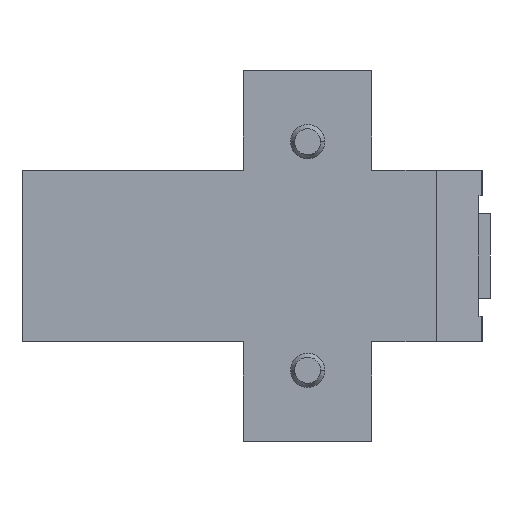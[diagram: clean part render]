
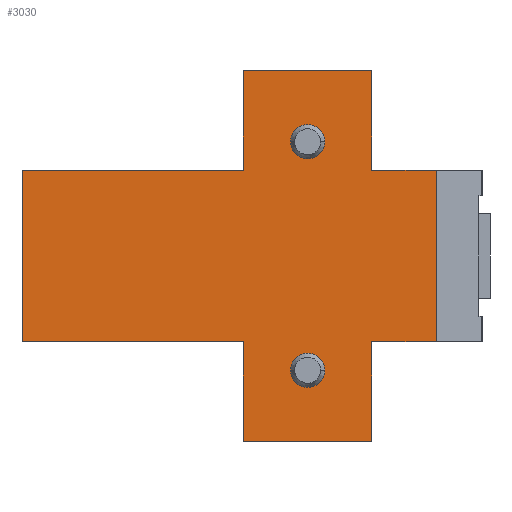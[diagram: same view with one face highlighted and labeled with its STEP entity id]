
A CAD part, left-side view. The second image highlights one B-rep face of the part: STEP entity #3030.
In plain terms, the highlighted planar face has unit normal (-1, 0, 0).
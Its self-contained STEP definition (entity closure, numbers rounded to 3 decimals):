
#387 = VERTEX_POINT ( 'NONE', #1208 ) ;
#395 = VERTEX_POINT ( 'NONE', #1222 ) ;
#416 = VERTEX_POINT ( 'NONE', #1243 ) ;
#417 = VERTEX_POINT ( 'NONE', #1244 ) ;
#422 = VERTEX_POINT ( 'NONE', #1249 ) ;
#424 = VERTEX_POINT ( 'NONE', #1251 ) ;
#448 = VERTEX_POINT ( 'NONE', #1275 ) ;
#449 = VERTEX_POINT ( 'NONE', #1276 ) ;
#453 = VERTEX_POINT ( 'NONE', #1280 ) ;
#455 = VERTEX_POINT ( 'NONE', #1282 ) ;
#456 = VERTEX_POINT ( 'NONE', #1283 ) ;
#458 = VERTEX_POINT ( 'NONE', #1285 ) ;
#461 = VERTEX_POINT ( 'NONE', #1288 ) ;
#463 = VERTEX_POINT ( 'NONE', #1290 ) ;
#464 = VERTEX_POINT ( 'NONE', #1291 ) ;
#466 = VERTEX_POINT ( 'NONE', #1293 ) ;
#616 = FACE_OUTER_BOUND ( 'NONE', #3461, .T. ) ;
#618 = DIRECTION ( 'NONE',  ( 1., 0., 0. ) ) ;
#621 = FACE_BOUND ( 'NONE', #3474, .T. ) ;
#622 = CARTESIAN_POINT ( 'NONE',  ( 0., -5.007, -12. ) ) ;
#624 = FACE_BOUND ( 'NONE', #3480, .T. ) ;
#625 = PLANE ( 'NONE',  #2630 ) ;
#626 = DIRECTION ( 'NONE',  ( 0., 0., -1. ) ) ;
#803 = ORIENTED_EDGE ( 'NONE', *, *, #3208, .F. ) ;
#804 = ORIENTED_EDGE ( 'NONE', *, *, #3131, .F. ) ;
#805 = ORIENTED_EDGE ( 'NONE', *, *, #3210, .F. ) ;
#806 = ORIENTED_EDGE ( 'NONE', *, *, #3211, .T. ) ;
#807 = ORIENTED_EDGE ( 'NONE', *, *, #3212, .F. ) ;
#808 = ORIENTED_EDGE ( 'NONE', *, *, #3213, .F. ) ;
#809 = ORIENTED_EDGE ( 'NONE', *, *, #3214, .F. ) ;
#810 = ORIENTED_EDGE ( 'NONE', *, *, #3215, .F. ) ;
#811 = ORIENTED_EDGE ( 'NONE', *, *, #3216, .T. ) ;
#812 = ORIENTED_EDGE ( 'NONE', *, *, #3217, .F. ) ;
#813 = ORIENTED_EDGE ( 'NONE', *, *, #3219, .T. ) ;
#814 = ORIENTED_EDGE ( 'NONE', *, *, #3220, .T. ) ;
#815 = ORIENTED_EDGE ( 'NONE', *, *, #3222, .T. ) ;
#816 = ORIENTED_EDGE ( 'NONE', *, *, #3223, .T. ) ;
#817 = ORIENTED_EDGE ( 'NONE', *, *, #3224, .F. ) ;
#818 = ORIENTED_EDGE ( 'NONE', *, *, #3122, .F. ) ;
#1208 = CARTESIAN_POINT ( 'NONE',  ( 0., 10.6, 16. ) ) ;
#1222 = CARTESIAN_POINT ( 'NONE',  ( 0., 15.4, 16. ) ) ;
#1243 = CARTESIAN_POINT ( 'NONE',  ( 0., 4., -26. ) ) ;
#1244 = CARTESIAN_POINT ( 'NONE',  ( 0., 22., -26. ) ) ;
#1249 = CARTESIAN_POINT ( 'NONE',  ( 0., 15.4, -16. ) ) ;
#1251 = CARTESIAN_POINT ( 'NONE',  ( 0., 10.6, -16. ) ) ;
#1275 = CARTESIAN_POINT ( 'NONE',  ( 0., 22., 12. ) ) ;
#1276 = CARTESIAN_POINT ( 'NONE',  ( 0., 22., -12. ) ) ;
#1280 = CARTESIAN_POINT ( 'NONE',  ( 0., 22., 26. ) ) ;
#1282 = CARTESIAN_POINT ( 'NONE',  ( 0., 53., -12. ) ) ;
#1283 = CARTESIAN_POINT ( 'NONE',  ( 0., 53., 12. ) ) ;
#1285 = CARTESIAN_POINT ( 'NONE',  ( 0., -5.007, -12. ) ) ;
#1288 = CARTESIAN_POINT ( 'NONE',  ( 0., 4., -12. ) ) ;
#1290 = CARTESIAN_POINT ( 'NONE',  ( 0., -5.007, 12. ) ) ;
#1291 = CARTESIAN_POINT ( 'NONE',  ( 0., 4., 12. ) ) ;
#1293 = CARTESIAN_POINT ( 'NONE',  ( 0., 4., 26. ) ) ;
#1910 = LINE ( 'NONE', #1927, #2636 ) ;
#1917 = CARTESIAN_POINT ( 'NONE',  ( 0., 13., -16. ) ) ;
#1918 = DIRECTION ( 'NONE',  ( -1., 0., 0. ) ) ;
#1919 = DIRECTION ( 'NONE',  ( 0., 0., -1. ) ) ;
#1922 = LINE ( 'NONE', #1929, #2811 ) ;
#1923 = LINE ( 'NONE', #1938, #2908 ) ;
#1924 = LINE ( 'NONE', #1925, #2504 ) ;
#1925 = CARTESIAN_POINT ( 'NONE',  ( 0., 22., -26. ) ) ;
#1926 = DIRECTION ( 'NONE',  ( 0., 0., 1. ) ) ;
#1927 = CARTESIAN_POINT ( 'NONE',  ( 0., -5.007, 12. ) ) ;
#1928 = DIRECTION ( 'NONE',  ( 0., 1., 0. ) ) ;
#1929 = CARTESIAN_POINT ( 'NONE',  ( 0., 53., -12. ) ) ;
#1930 = DIRECTION ( 'NONE',  ( 0., 0., 1. ) ) ;
#1931 = LINE ( 'NONE', #1932, #2941 ) ;
#1932 = CARTESIAN_POINT ( 'NONE',  ( 0., -5.007, -12. ) ) ;
#1933 = DIRECTION ( 'NONE',  ( 0., 1., 0. ) ) ;
#1934 = LINE ( 'NONE', #1936, #2731 ) ;
#1936 = CARTESIAN_POINT ( 'NONE',  ( 0., 22., -26. ) ) ;
#1937 = DIRECTION ( 'NONE',  ( 0., 0., 1. ) ) ;
#1938 = CARTESIAN_POINT ( 'NONE',  ( 0., 4., -26. ) ) ;
#1939 = DIRECTION ( 'NONE',  ( 0., 1., 0. ) ) ;
#1940 = LINE ( 'NONE', #1941, #2821 ) ;
#1941 = CARTESIAN_POINT ( 'NONE',  ( 0., 4., -26. ) ) ;
#1942 = DIRECTION ( 'NONE',  ( 0., 0., 1. ) ) ;
#1943 = LINE ( 'NONE', #1945, #2739 ) ;
#1945 = CARTESIAN_POINT ( 'NONE',  ( 0., -5.007, -12. ) ) ;
#1946 = DIRECTION ( 'NONE',  ( 0., 1., 0. ) ) ;
#1948 = LINE ( 'NONE', #1956, #2806 ) ;
#1952 = LINE ( 'NONE', #1953, #2708 ) ;
#1953 = CARTESIAN_POINT ( 'NONE',  ( 0., -5.007, -12. ) ) ;
#1954 = DIRECTION ( 'NONE',  ( 0., 0., 1. ) ) ;
#1956 = CARTESIAN_POINT ( 'NONE',  ( 0., -5.007, 12. ) ) ;
#1957 = DIRECTION ( 'NONE',  ( 0., 1., 0. ) ) ;
#1959 = LINE ( 'NONE', #1967, #2463 ) ;
#1964 = LINE ( 'NONE', #1965, #2770 ) ;
#1965 = CARTESIAN_POINT ( 'NONE',  ( 0., 4., -26. ) ) ;
#1966 = DIRECTION ( 'NONE',  ( 0., 0., 1. ) ) ;
#1967 = CARTESIAN_POINT ( 'NONE',  ( 0., 4., 26. ) ) ;
#1968 = DIRECTION ( 'NONE',  ( 0., 1., 0. ) ) ;
#1970 = CARTESIAN_POINT ( 'NONE',  ( 0., 13., 16. ) ) ;
#1971 = DIRECTION ( 'NONE',  ( -1., 0., 0. ) ) ;
#1972 = DIRECTION ( 'NONE',  ( 0., 0., -1. ) ) ;
#2255 = CARTESIAN_POINT ( 'NONE',  ( 0., 13., 16. ) ) ;
#2256 = DIRECTION ( 'NONE',  ( -1., 0., 0. ) ) ;
#2257 = DIRECTION ( 'NONE',  ( 0., 0., -1. ) ) ;
#2286 = CARTESIAN_POINT ( 'NONE',  ( 0., 13., -16. ) ) ;
#2287 = DIRECTION ( 'NONE',  ( -1., 0., 0. ) ) ;
#2288 = DIRECTION ( 'NONE',  ( 0., 0., -1. ) ) ;
#2463 = VECTOR ( 'NONE', #1968, 1000. ) ;
#2504 = VECTOR ( 'NONE', #1926, 1000. ) ;
#2525 = CIRCLE ( 'NONE', #2891, 2.4 ) ;
#2572 = CIRCLE ( 'NONE', #2621, 2.4 ) ;
#2621 = AXIS2_PLACEMENT_3D ( 'NONE', #2255, #2256, #2257 ) ;
#2630 = AXIS2_PLACEMENT_3D ( 'NONE', #622, #618, #626 ) ;
#2636 = VECTOR ( 'NONE', #1928, 1000. ) ;
#2708 = VECTOR ( 'NONE', #1954, 1000. ) ;
#2731 = VECTOR ( 'NONE', #1937, 1000. ) ;
#2739 = VECTOR ( 'NONE', #1946, 1000. ) ;
#2770 = VECTOR ( 'NONE', #1966, 1000. ) ;
#2806 = VECTOR ( 'NONE', #1957, 1000. ) ;
#2811 = VECTOR ( 'NONE', #1930, 1000. ) ;
#2821 = VECTOR ( 'NONE', #1942, 1000. ) ;
#2828 = AXIS2_PLACEMENT_3D ( 'NONE', #1917, #1918, #1919 ) ;
#2891 = AXIS2_PLACEMENT_3D ( 'NONE', #1970, #1971, #1972 ) ;
#2895 = CIRCLE ( 'NONE', #2975, 2.4 ) ;
#2908 = VECTOR ( 'NONE', #1939, 1000. ) ;
#2941 = VECTOR ( 'NONE', #1933, 1000. ) ;
#2964 = CIRCLE ( 'NONE', #2828, 2.4 ) ;
#2975 = AXIS2_PLACEMENT_3D ( 'NONE', #2286, #2287, #2288 ) ;
#3030 = ADVANCED_FACE ( 'NONE', ( #621, #616, #624 ), #625, .F. ) ;
#3122 = EDGE_CURVE ( 'NONE', #395, #387, #2572, .T. ) ;
#3131 = EDGE_CURVE ( 'NONE', #422, #424, #2895, .T. ) ;
#3208 = EDGE_CURVE ( 'NONE', #424, #422, #2964, .T. ) ;
#3210 = EDGE_CURVE ( 'NONE', #448, #453, #1924, .T. ) ;
#3211 = EDGE_CURVE ( 'NONE', #448, #456, #1910, .T. ) ;
#3212 = EDGE_CURVE ( 'NONE', #455, #456, #1922, .T. ) ;
#3213 = EDGE_CURVE ( 'NONE', #449, #455, #1931, .T. ) ;
#3214 = EDGE_CURVE ( 'NONE', #417, #449, #1934, .T. ) ;
#3215 = EDGE_CURVE ( 'NONE', #416, #417, #1923, .T. ) ;
#3216 = EDGE_CURVE ( 'NONE', #416, #461, #1940, .T. ) ;
#3217 = EDGE_CURVE ( 'NONE', #458, #461, #1943, .T. ) ;
#3219 = EDGE_CURVE ( 'NONE', #458, #463, #1952, .T. ) ;
#3220 = EDGE_CURVE ( 'NONE', #463, #464, #1948, .T. ) ;
#3222 = EDGE_CURVE ( 'NONE', #464, #466, #1964, .T. ) ;
#3223 = EDGE_CURVE ( 'NONE', #466, #453, #1959, .T. ) ;
#3224 = EDGE_CURVE ( 'NONE', #387, #395, #2525, .T. ) ;
#3461 = EDGE_LOOP ( 'NONE', ( #805, #806, #807, #808, #809, #810, #811, #812, #813, #814, #815, #816 ) ) ;
#3474 = EDGE_LOOP ( 'NONE', ( #803, #804 ) ) ;
#3480 = EDGE_LOOP ( 'NONE', ( #817, #818 ) ) ;
